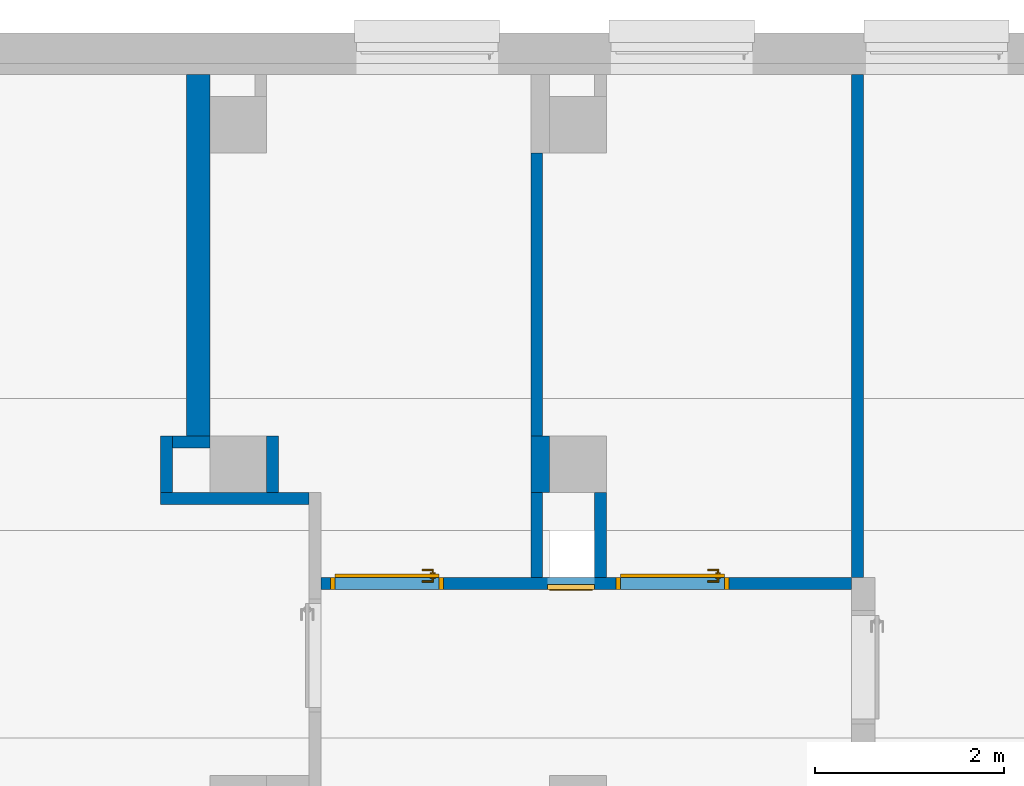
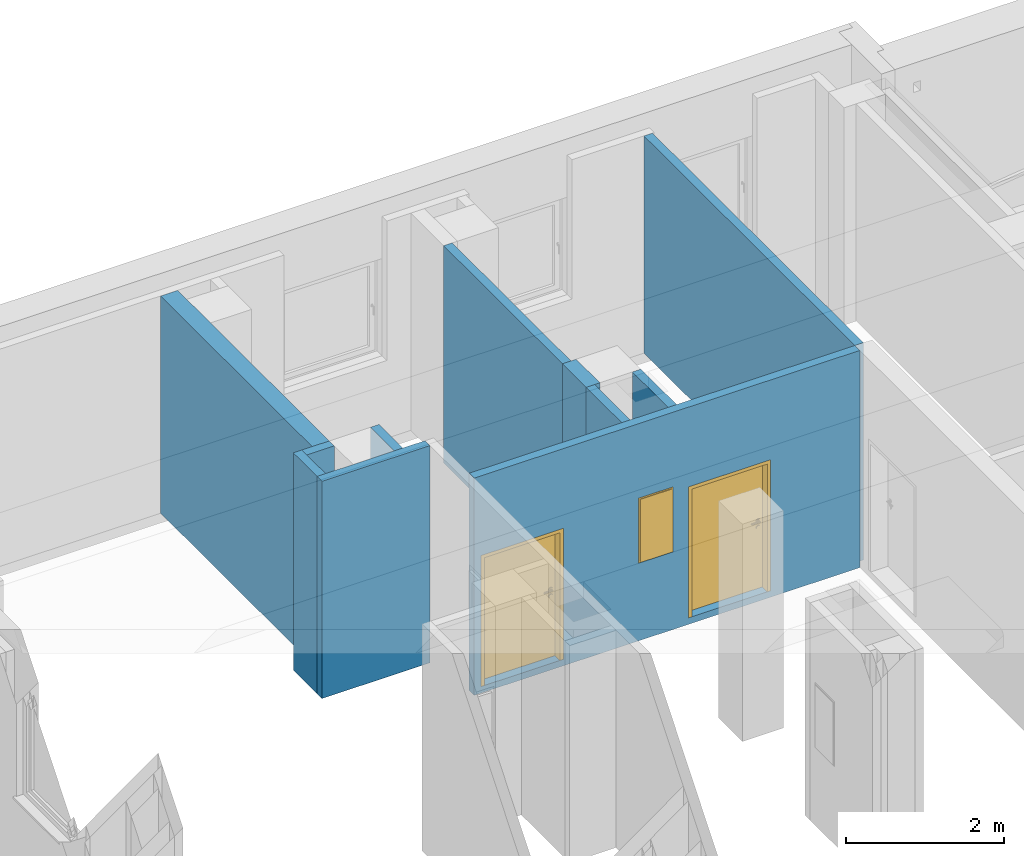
# One storey, part 49 of 140: 11 walls, 2 doors, 1 window, 3 openings.
"""IFC4 building model written with IfcOpenShell, lengths in metres."""

from ifc_helpers import new_model, entity, si_unit, converted_unit, derived_unit, frame, frame_2d, origin, origin_with_axes, place, context, subcontext, project, spatial, polyline, rectangle, outline, extrude, closed_shell, open_shell, faceted_brep, surface_model, source, transform, mapped, material, layer, layer_set, layer_usage, type_object, element, fill, save


model = new_model("IFC4")

# Units and contexts
model_context = context("Model", 3, precision=1e-05, world=origin())
body_context = subcontext(model_context, "Body", "Model", "MODEL_VIEW")
ifc_project = project(units=[si_unit("LENGTHUNIT", "METRE"), si_unit("AREAUNIT", "SQUARE_METRE"), si_unit("VOLUMEUNIT", "CUBIC_METRE"), si_unit("MASSUNIT", "GRAM", prefix="KILO"), converted_unit("PLANEANGLEUNIT", "DEGREE", entity("IfcPlaneAngleMeasure", 0.0174532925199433), si_unit("PLANEANGLEUNIT", "RADIAN"), dimensions=[0, 0, 0, 0, 0, 0, 0]), derived_unit("THERMALTRANSMITTANCEUNIT", [(si_unit("POWERUNIT", "WATT"), 1), (si_unit("THERMODYNAMICTEMPERATUREUNIT", "KELVIN"), -1), (si_unit("LENGTHUNIT", "METRE"), -2)]), derived_unit("VOLUMETRICFLOWRATEUNIT", [(si_unit("LENGTHUNIT", "METRE"), 3), (converted_unit("TIMEUNIT", "hour", entity("IfcTimeMeasure", 3600.0), si_unit("TIMEUNIT", "SECOND"), dimensions=[0, 0, 1, 0, 0, 0, 0]), -1), (si_unit("LENGTHUNIT", "METRE"), -1)])], contexts=[model_context])

# Site, building, storey
site_placement = place(None, origin())
site = spatial("IfcSite", under=ifc_project, at=site_placement, Name="3. ASŘ", CompositionType="ELEMENT")
building_placement = place(site_placement, origin())
building = spatial("IfcBuilding", under=site, at=building_placement, Name="Pavilon C", CompositionType="ELEMENT")
storey_placement = place(building_placement, origin())
storey = spatial("IfcBuildingStorey", under=building, at=storey_placement, Name="Půdorys 1.NP", CompositionType="ELEMENT", Elevation=0.0)

# Walls
ifc_material_1 = material(Name="ZDIVO Z CDm")
ifc_layer_1 = layer(ifc_material_1, 0.125)
ifc_layer_set_1 = layer_set([ifc_layer_1])
ifc_layer_usage_1 = layer_usage(ifc_layer_set_1, "AXIS2", "POSITIVE", 0.0)
wall_1_placement = place(storey_placement, frame((31.5, 28.5, -0.1), z_axis=(0.0, 0.0, 1.0), x_axis=(-1.0, 0.0, 0.0)))
element("IfcWall", 1, at=wall_1_placement, inside=storey, material=ifc_layer_usage_1, Name="ZDIVO Z CDm", context=body_context, shape_type="SweptSolid", body=[
    extrude(rectangle(XDim=1.575, YDim=0.125, at=frame_2d((0.7875, 0.0625), x_axis=(1.0, 0.0))), origin_with_axes(), (0.0, 0.0, 1.0), 3.35),
])
ifc_material_2 = material(Name="ZDIVO Z CDm")
ifc_layer_2 = layer(ifc_material_2, 0.125)
ifc_layer_set_2 = layer_set([ifc_layer_2])
ifc_layer_usage_2 = layer_usage(ifc_layer_set_2, "AXIS2", "POSITIVE", 0.0)
wall_2_placement = place(storey_placement, frame((30.05, 28.5, -0.1), z_axis=(0.0, 0.0, 1.0), x_axis=(0.0, 1.0, 0.0)))
element("IfcWall", 2, at=wall_2_placement, inside=storey, material=ifc_layer_usage_2, Name="ZDIVO Z CDm", context=body_context, shape_type="SweptSolid", body=[
    extrude(rectangle(XDim=0.6, YDim=0.125, at=frame_2d((0.3, 0.0625), x_axis=(1.0, 0.0))), origin_with_axes(), (0.0, 0.0, 1.0), 3.35),
])
ifc_material_3 = material(Name="ZDIVO Z CDm")
ifc_layer_3 = layer(ifc_material_3, 0.125)
ifc_layer_set_3 = layer_set([ifc_layer_3])
ifc_layer_usage_3 = layer_usage(ifc_layer_set_3, "AXIS2", "POSITIVE", 0.0)
wall_3_placement = place(storey_placement, frame((30.05, 28.975, -0.1)))
element("IfcWall", 3, at=wall_3_placement, inside=storey, material=ifc_layer_usage_3, Name="ZDIVO Z CDm", context=body_context, shape_type="SweptSolid", body=[
    extrude(rectangle(XDim=0.400000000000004, YDim=0.125, at=frame_2d((0.200000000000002, 0.0625), x_axis=(1.0, 0.0))), origin_with_axes(), (0.0, 0.0, 1.0), 3.35),
])
ifc_material_4 = material(Name="ZDIVO Z CDm")
ifc_layer_4 = layer(ifc_material_4, 0.125)
ifc_layer_set_4 = layer_set([ifc_layer_4])
ifc_layer_usage_4 = layer_usage(ifc_layer_set_4, "AXIS2", "POSITIVE", 0.0)
wall_4_placement = place(storey_placement, frame((31.05, 29.1, -0.1), z_axis=(0.0, 0.0, 1.0), x_axis=(0.0, -1.0, 0.0)))
element("IfcWall", 4, at=wall_4_placement, inside=storey, material=ifc_layer_usage_4, Name="ZDIVO Z CDm", context=body_context, shape_type="SweptSolid", body=[
    extrude(rectangle(XDim=0.6, YDim=0.125, at=frame_2d((0.3, 0.0625), x_axis=(1.0, 0.0))), origin_with_axes(), (0.0, 0.0, 1.0), 3.35),
])

# Wall, openings, doors, window
ifc_material_5 = material(Name="ZDIVO Z CDm")
ifc_layer_5 = layer(ifc_material_5, 0.125)
ifc_layer_set_5 = layer_set([ifc_layer_5])
ifc_layer_usage_5 = layer_usage(ifc_layer_set_5, "AXIS2", "POSITIVE", 0.0)
wall_5_placement = place(storey_placement, frame((31.625, 27.475, -0.1)))
wall_5 = element("IfcWall", 5, at=wall_5_placement, inside=storey, material=ifc_layer_usage_5, Name="ZDIVO Z CDm", context=body_context, shape_type="SweptSolid", body=[
    extrude(rectangle(XDim=5.625, YDim=0.125, at=frame_2d((2.8125, 0.0625), x_axis=(1.0, 0.0))), origin_with_axes(), (0.0, 0.0, 1.0), 3.35),
])
opening_1_placement = place(wall_5_placement, frame((2.4, 0.0, 1.2), z_axis=(0.0, 1.0, 0.0), x_axis=(0.0, 0.0, 1.0)))
opening_1 = element("IfcOpeningElement", 6, at=opening_1_placement, cuts=wall_5, Name="Okenní otvor", ObjectType="Opening", context=body_context, shape_type="SweptSolid", body=[
    extrude(outline(polyline([(0.0, 0.5), (1.0, 0.5), (1.0, 0.0), (0.0, 0.0), (0.0, 0.5)])), origin_with_axes(), (0.0, 0.0, 1.0), 0.125),
])
opening_2_placement = place(wall_5_placement, frame((1.3, 0.125, 0.1), z_axis=(0.0, -1.0, 0.0), x_axis=(0.0, 0.0, 1.0)))
opening_2 = element("IfcOpeningElement", 7, at=opening_2_placement, cuts=wall_5, Name="Dveřní otvor", ObjectType="Opening", context=body_context, shape_type="SweptSolid", body=[
    extrude(outline(polyline([(0.0, 1.2), (2.02, 1.2), (2.02, 0.0), (0.0, 0.0), (0.0, 1.2)])), origin_with_axes(), (0.0, 0.0, 1.0), 0.125),
])
opening_3_placement = place(wall_5_placement, frame((4.325, 0.125, 0.1), z_axis=(0.0, -1.0, 0.0), x_axis=(0.0, 0.0, 1.0)))
opening_3 = element("IfcOpeningElement", 8, at=opening_3_placement, cuts=wall_5, Name="Dveřní otvor", ObjectType="Opening", context=body_context, shape_type="SweptSolid", body=[
    extrude(outline(polyline([(0.0, 1.2), (2.02, 1.2), (2.02, 0.0), (0.0, 0.0), (0.0, 1.2)])), origin_with_axes(), (0.0, 0.0, 1.0), 0.125),
])
door_type_1 = type_object("IfcDoorType", Name="D101", OperationType="NOTDEFINED", ParameterTakesPrecedence=False, PredefinedType="DOOR")
shared_shape_1 = source(origin_with_axes(), body_context, "Body", "SurfaceModel", [
    surface_model("IfcShellBasedSurfaceModel", [(0.0, 0.125, 2.02), (0.0, 0.125, -7.65404249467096e-18), (0.05, 0.125, -7.65404249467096e-18), (0.05, 0.125, 2.02), (0.0, 0.0, 7.65404249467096e-18), (0.0, 2.41584530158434e-16, 2.02), (0.05, 2.41584530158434e-16, 2.02), (0.05, 0.0, 7.65404249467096e-18)], [closed_shell([[[0, 1, 2, 3]], [[4, 5, 6, 7]], [[1, 0, 5, 4]], [[2, 1, 4, 7]], [[3, 2, 7, 6]], [[0, 3, 6, 5]]], orient=[[False], [False], [False], [False], [False], [False]])]),
    surface_model("IfcShellBasedSurfaceModel", [(1.15, 0.125, 2.02), (1.15, 0.125, -7.65404249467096e-18), (1.2, 0.125, -7.65404249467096e-18), (1.2, 0.125, 2.02), (1.15, 0.0, 7.65404249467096e-18), (1.15, 2.41584530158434e-16, 2.02), (1.2, 2.41584530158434e-16, 2.02), (1.2, 0.0, 7.65404249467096e-18)], [closed_shell([[[0, 1, 2, 3]], [[4, 5, 6, 7]], [[1, 0, 5, 4]], [[2, 1, 4, 7]], [[3, 2, 7, 6]], [[0, 3, 6, 5]]], orient=[[False], [False], [False], [False], [False], [False]])]),
    surface_model("IfcShellBasedSurfaceModel", [(0.05, 0.125, 2.02), (0.05, 0.125, 1.97), (1.15, 0.125, 1.97), (1.15, 0.125, 2.02), (0.05, 2.41584530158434e-16, 1.97), (0.05, 2.41584530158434e-16, 2.02), (1.15, 2.41584530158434e-16, 2.02), (1.15, 2.41584530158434e-16, 1.97)], [closed_shell([[[0, 1, 2, 3]], [[4, 5, 6, 7]], [[1, 0, 5, 4]], [[2, 1, 4, 7]], [[3, 2, 7, 6]], [[0, 3, 6, 5]]], orient=[[False], [False], [False], [False], [False], [False]])]),
    surface_model("IfcShellBasedSurfaceModel", [(0.05, 0.165, 1.97), (0.05, 0.165, -1.25526296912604e-17), (1.15, 0.165, -1.25526296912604e-17), (1.15, 0.165, 1.97), (0.05, 0.125, -7.65404249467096e-18), (0.05, 0.125, 1.97), (1.15, 0.125, 1.97), (1.15, 0.125, -7.65404249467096e-18)], [closed_shell([[[0, 1, 2, 3]], [[4, 5, 6, 7]], [[1, 0, 5, 4]], [[2, 1, 4, 7]], [[3, 2, 7, 6]], [[0, 3, 6, 5]]], orient=[[False], [False], [False], [False], [False], [False]])]),
    surface_model("IfcShellBasedSurfaceModel", [(1.10881569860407, 0.125, 0.93625), (1.1125, 0.125, 0.95), (1.10881569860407, 0.125, 0.96375), (1.09875, 0.125, 0.973815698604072), (1.085, 0.125, 0.9775), (1.07125, 0.125, 0.973815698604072), (1.06118430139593, 0.125, 0.96375), (1.0575, 0.125, 0.95), (1.06118430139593, 0.125, 0.93625), (1.07125, 0.125, 0.926184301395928), (1.085, 0.125, 0.9225), (1.09875, 0.125, 0.926184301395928), (1.1125, 0.1125, 0.95), (1.10881569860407, 0.1125, 0.93625), (1.09875, 0.1125, 0.926184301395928), (1.085, 0.1125, 0.9225), (1.07125, 0.1125, 0.926184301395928), (1.06118430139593, 0.1125, 0.93625), (1.0575, 0.1125, 0.95), (1.06118430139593, 0.1125, 0.96375), (1.07125, 0.1125, 0.973815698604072), (1.085, 0.1125, 0.9775), (1.09875, 0.1125, 0.973815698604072), (1.10881569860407, 0.1125, 0.96375)], [closed_shell([[[0, 1, 2, 3, 4, 5, 6, 7, 8, 9, 10, 11]], [[12, 13, 14, 15, 16, 17, 18, 19, 20, 21, 22, 23]], [[1, 0, 13, 12]], [[2, 1, 12, 23]], [[3, 2, 23, 22]], [[4, 3, 22, 21]], [[5, 4, 21, 20]], [[6, 5, 20, 19]], [[7, 6, 19, 18]], [[8, 7, 18, 17]], [[9, 8, 17, 16]], [[10, 9, 16, 15]], [[11, 10, 15, 14]], [[0, 11, 14, 13]]], orient=[[False], [False], [False], [False], [False], [False], [False], [False], [False], [False], [False], [False], [False], [False]])]),
    surface_model("IfcShellBasedSurfaceModel", [(1.10881569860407, 0.125, 1.03625), (1.1125, 0.125, 1.05), (1.10881569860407, 0.125, 1.06375), (1.09875, 0.125, 1.07381569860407), (1.085, 0.125, 1.0775), (1.07125, 0.125, 1.07381569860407), (1.06118430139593, 0.125, 1.06375), (1.0575, 0.125, 1.05), (1.06118430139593, 0.125, 1.03625), (1.07125, 0.125, 1.02618430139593), (1.085, 0.125, 1.0225), (1.09875, 0.125, 1.02618430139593), (1.1125, 0.1125, 1.05), (1.10881569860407, 0.1125, 1.03625), (1.09875, 0.1125, 1.02618430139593), (1.085, 0.1125, 1.0225), (1.07125, 0.1125, 1.02618430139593), (1.06118430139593, 0.1125, 1.03625), (1.0575, 0.1125, 1.05), (1.06118430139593, 0.1125, 1.06375), (1.07125, 0.1125, 1.07381569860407), (1.085, 0.1125, 1.0775), (1.09875, 0.1125, 1.07381569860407), (1.10881569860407, 0.1125, 1.06375)], [closed_shell([[[0, 1, 2, 3, 4, 5, 6, 7, 8, 9, 10, 11]], [[12, 13, 14, 15, 16, 17, 18, 19, 20, 21, 22, 23]], [[1, 0, 13, 12]], [[2, 1, 12, 23]], [[3, 2, 23, 22]], [[4, 3, 22, 21]], [[5, 4, 21, 20]], [[6, 5, 20, 19]], [[7, 6, 19, 18]], [[8, 7, 18, 17]], [[9, 8, 17, 16]], [[10, 9, 16, 15]], [[11, 10, 15, 14]], [[0, 11, 14, 13]]], orient=[[False], [False], [False], [False], [False], [False], [False], [False], [False], [False], [False], [False], [False], [False]])]),
    surface_model("IfcShellBasedSurfaceModel", [(1.085, 0.125, 1.06), (1.08, 0.125, 1.05866025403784), (1.07633974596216, 0.125, 1.055), (1.075, 0.125, 1.05), (1.07633974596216, 0.125, 1.045), (1.08, 0.125, 1.04133974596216), (1.085, 0.125, 1.04), (1.09, 0.125, 1.04133974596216), (1.09366025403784, 0.125, 1.045), (1.095, 0.125, 1.05), (1.09366025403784, 0.125, 1.055), (1.09, 0.125, 1.05866025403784), (1.09, 0.0800000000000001, 1.05866025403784), (1.085, 0.0850000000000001, 1.06), (1.09366025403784, 0.0763397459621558, 1.055), (1.095, 0.0750000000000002, 1.05), (1.09366025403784, 0.0763397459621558, 1.045), (1.09, 0.0800000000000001, 1.04133974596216), (1.085, 0.0850000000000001, 1.04), (1.08, 0.0900000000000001, 1.04133974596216), (1.07633974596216, 0.0936602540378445, 1.045), (1.075, 0.0950000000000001, 1.05), (1.07633974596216, 0.0936602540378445, 1.055), (1.08, 0.0900000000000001, 1.05866025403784), (0.97, 0.0800000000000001, 1.05866025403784), (0.97, 0.0850000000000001, 1.06), (0.97, 0.0763397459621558, 1.055), (0.97, 0.0750000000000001, 1.05), (0.97, 0.0763397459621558, 1.045), (0.97, 0.0800000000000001, 1.04133974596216), (0.97, 0.0850000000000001, 1.04), (0.97, 0.0900000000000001, 1.04133974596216), (0.97, 0.0936602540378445, 1.045), (0.97, 0.0950000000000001, 1.05), (0.97, 0.0936602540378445, 1.055), (0.97, 0.0900000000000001, 1.05866025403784)], [open_shell([[[0, 1, 2, 3, 4, 5, 6, 7, 8, 9, 10, 11]], [[0, 11, 12, 13]], [[11, 10, 14, 12]], [[10, 9, 15, 14]], [[9, 8, 16, 15]], [[8, 7, 17, 16]], [[7, 6, 18, 17]], [[6, 5, 19, 18]], [[5, 4, 20, 19]], [[4, 3, 21, 20]], [[3, 2, 22, 21]], [[2, 1, 23, 22]], [[1, 0, 13, 23]], [[13, 12, 24, 25]], [[12, 14, 26, 24]], [[14, 15, 27, 26]], [[15, 16, 28, 27]], [[16, 17, 29, 28]], [[17, 18, 30, 29]], [[18, 19, 31, 30]], [[19, 20, 32, 31]], [[20, 21, 33, 32]], [[21, 22, 34, 33]], [[22, 23, 35, 34]], [[23, 13, 25, 35]]], orient=[[False], [False], [False], [False], [False], [False], [False], [False], [False], [False], [False], [False], [False], [False], [False], [False], [False], [False], [False], [False], [False], [False], [False], [False], [False]])]),
    surface_model("IfcShellBasedSurfaceModel", [(1.10881569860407, 0.165, 0.93625), (1.09875, 0.165, 0.926184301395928), (1.085, 0.165, 0.9225), (1.07125, 0.165, 0.926184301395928), (1.06118430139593, 0.165, 0.93625), (1.0575, 0.165, 0.95), (1.06118430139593, 0.165, 0.96375), (1.07125, 0.165, 0.973815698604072), (1.085, 0.165, 0.9775), (1.09875, 0.165, 0.973815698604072), (1.10881569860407, 0.165, 0.96375), (1.1125, 0.165, 0.95), (1.1125, 0.1775, 0.95), (1.10881569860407, 0.1775, 0.96375), (1.09875, 0.1775, 0.973815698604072), (1.085, 0.1775, 0.9775), (1.07125, 0.1775, 0.973815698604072), (1.06118430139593, 0.1775, 0.96375), (1.0575, 0.1775, 0.95), (1.06118430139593, 0.1775, 0.93625), (1.07125, 0.1775, 0.926184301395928), (1.085, 0.1775, 0.9225), (1.09875, 0.1775, 0.926184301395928), (1.10881569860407, 0.1775, 0.93625)], [closed_shell([[[0, 1, 2, 3, 4, 5, 6, 7, 8, 9, 10, 11]], [[12, 13, 14, 15, 16, 17, 18, 19, 20, 21, 22, 23]], [[11, 12, 23, 0]], [[10, 13, 12, 11]], [[9, 14, 13, 10]], [[8, 15, 14, 9]], [[7, 16, 15, 8]], [[6, 17, 16, 7]], [[5, 18, 17, 6]], [[4, 19, 18, 5]], [[3, 20, 19, 4]], [[2, 21, 20, 3]], [[1, 22, 21, 2]], [[0, 23, 22, 1]]], orient=[[False], [False], [False], [False], [False], [False], [False], [False], [False], [False], [False], [False], [False], [False]])]),
    surface_model("IfcShellBasedSurfaceModel", [(1.10881569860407, 0.165, 1.03625), (1.09875, 0.165, 1.02618430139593), (1.085, 0.165, 1.0225), (1.07125, 0.165, 1.02618430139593), (1.06118430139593, 0.165, 1.03625), (1.0575, 0.165, 1.05), (1.06118430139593, 0.165, 1.06375), (1.07125, 0.165, 1.07381569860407), (1.085, 0.165, 1.0775), (1.09875, 0.165, 1.07381569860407), (1.10881569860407, 0.165, 1.06375), (1.1125, 0.165, 1.05), (1.1125, 0.1775, 1.05), (1.10881569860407, 0.1775, 1.06375), (1.09875, 0.1775, 1.07381569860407), (1.085, 0.1775, 1.0775), (1.07125, 0.1775, 1.07381569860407), (1.06118430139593, 0.1775, 1.06375), (1.0575, 0.1775, 1.05), (1.06118430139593, 0.1775, 1.03625), (1.07125, 0.1775, 1.02618430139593), (1.085, 0.1775, 1.0225), (1.09875, 0.1775, 1.02618430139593), (1.10881569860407, 0.1775, 1.03625)], [closed_shell([[[0, 1, 2, 3, 4, 5, 6, 7, 8, 9, 10, 11]], [[12, 13, 14, 15, 16, 17, 18, 19, 20, 21, 22, 23]], [[11, 12, 23, 0]], [[10, 13, 12, 11]], [[9, 14, 13, 10]], [[8, 15, 14, 9]], [[7, 16, 15, 8]], [[6, 17, 16, 7]], [[5, 18, 17, 6]], [[4, 19, 18, 5]], [[3, 20, 19, 4]], [[2, 21, 20, 3]], [[1, 22, 21, 2]], [[0, 23, 22, 1]]], orient=[[False], [False], [False], [False], [False], [False], [False], [False], [False], [False], [False], [False], [False], [False]])]),
    surface_model("IfcShellBasedSurfaceModel", [(1.085, 0.165, 1.06), (1.09, 0.165, 1.05866025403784), (1.09366025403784, 0.165, 1.055), (1.095, 0.165, 1.05), (1.09366025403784, 0.165, 1.045), (1.09, 0.165, 1.04133974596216), (1.085, 0.165, 1.04), (1.08, 0.165, 1.04133974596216), (1.07633974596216, 0.165, 1.045), (1.075, 0.165, 1.05), (1.07633974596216, 0.165, 1.055), (1.08, 0.165, 1.05866025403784), (1.085, 0.205, 1.06), (1.09, 0.21, 1.05866025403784), (1.09366025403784, 0.213660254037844, 1.055), (1.095, 0.215, 1.05), (1.09366025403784, 0.213660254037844, 1.045), (1.09, 0.21, 1.04133974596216), (1.085, 0.205, 1.04), (1.08, 0.2, 1.04133974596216), (1.07633974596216, 0.196339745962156, 1.045), (1.075, 0.195, 1.05), (1.07633974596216, 0.196339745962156, 1.055), (1.08, 0.2, 1.05866025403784), (0.97, 0.205, 1.06), (0.97, 0.21, 1.05866025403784), (0.97, 0.213660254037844, 1.055), (0.97, 0.215, 1.05), (0.97, 0.213660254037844, 1.045), (0.97, 0.21, 1.04133974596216), (0.97, 0.205, 1.04), (0.97, 0.2, 1.04133974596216), (0.97, 0.196339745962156, 1.045), (0.97, 0.195, 1.05), (0.97, 0.196339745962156, 1.055), (0.97, 0.2, 1.05866025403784)], [open_shell([[[0, 1, 2, 3, 4, 5, 6, 7, 8, 9, 10, 11]], [[0, 12, 13, 1]], [[1, 13, 14, 2]], [[2, 14, 15, 3]], [[3, 15, 16, 4]], [[4, 16, 17, 5]], [[5, 17, 18, 6]], [[6, 18, 19, 7]], [[7, 19, 20, 8]], [[8, 20, 21, 9]], [[9, 21, 22, 10]], [[10, 22, 23, 11]], [[11, 23, 12, 0]], [[12, 24, 25, 13]], [[13, 25, 26, 14]], [[14, 26, 27, 15]], [[15, 27, 28, 16]], [[16, 28, 29, 17]], [[17, 29, 30, 18]], [[18, 30, 31, 19]], [[19, 31, 32, 20]], [[20, 32, 33, 21]], [[21, 33, 34, 22]], [[22, 34, 35, 23]], [[23, 35, 24, 12]]], orient=[[False], [False], [False], [False], [False], [False], [False], [False], [False], [False], [False], [False], [False], [False], [False], [False], [False], [False], [False], [False], [False], [False], [False], [False], [False]])]),
])
door_1_placement = place(opening_2_placement, frame((0.0, 1.2, 0.125), z_axis=(1.0, 0.0, 0.0), x_axis=(0.0, -1.0, 2.44929359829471e-16)))
door_1 = element("IfcDoor", 9, at=door_1_placement, inside=storey, type_object=door_type_1, Name="D101", OverallHeight=2.02, OverallWidth=1.2, context=body_context, shape_type="MappedRepresentation", body=[
    mapped(shared_shape_1, transform((0.0, 0.0, 0.0), x_axis=(1.0, 0.0, 0.0), y_axis=(0.0, 1.0, 0.0), z_axis=(0.0, 0.0, 1.0), scale=1.0)),
])
fill(opening_2, door_1)
door_type_2 = type_object("IfcDoorType", Name="D101", OperationType="NOTDEFINED", ParameterTakesPrecedence=False, PredefinedType="DOOR")
door_2_placement = place(opening_3_placement, frame((0.0, 1.2, 0.125), z_axis=(1.0, 0.0, 0.0), x_axis=(0.0, -1.0, 2.44929359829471e-16)))
door_2 = element("IfcDoor", 10, at=door_2_placement, inside=storey, type_object=door_type_2, Name="D101", OverallHeight=2.02, OverallWidth=1.2, context=body_context, shape_type="MappedRepresentation", body=[
    mapped(shared_shape_1, transform((0.0, 0.0, 0.0), x_axis=(1.0, 0.0, 0.0), y_axis=(0.0, 1.0, 0.0), z_axis=(0.0, 0.0, 1.0), scale=1.0)),
])
fill(opening_3, door_2)
shared_shape_2 = source(origin_with_axes(), body_context, "Body", "Brep", [
    faceted_brep([(0.0, 0.0600000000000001, 1.0), (0.0, 0.06, 4.91096680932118e-19), (0.02, 0.06, 4.91096680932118e-19), (0.02, 0.0600000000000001, 1.0), (0.0, 0.01, 6.61433067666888e-18), (0.0, 0.0100000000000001, 1.0), (0.02, 0.0100000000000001, 1.0), (0.02, 0.01, 6.61433067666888e-18)], [[[0, 1, 2, 3]], [[4, 5, 6, 7]], [[1, 0, 5, 4]], [[2, 1, 4, 7]], [[3, 2, 7, 6]], [[0, 3, 6, 5]]], orient=[[False], [False], [False], [False], [False], [False]]),
    faceted_brep([(0.48, 0.0600000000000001, 1.0), (0.48, 0.06, 4.91096680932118e-19), (0.5, 0.06, 4.91096680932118e-19), (0.5, 0.0600000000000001, 1.0), (0.48, 0.01, 6.61433067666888e-18), (0.48, 0.0100000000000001, 1.0), (0.5, 0.0100000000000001, 1.0), (0.5, 0.01, 6.61433067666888e-18)], [[[0, 1, 2, 3]], [[4, 5, 6, 7]], [[1, 0, 5, 4]], [[2, 1, 4, 7]], [[3, 2, 7, 6]], [[0, 3, 6, 5]]], orient=[[False], [False], [False], [False], [False], [False]]),
    faceted_brep([(0.02, 0.06, 0.02), (0.02, 0.06, 4.91096680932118e-19), (0.48, 0.06, 4.91096680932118e-19), (0.48, 0.06, 0.02), (0.02, 0.01, 6.61433067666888e-18), (0.02, 0.01, 0.02), (0.48, 0.01, 0.02), (0.48, 0.01, 6.61433067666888e-18)], [[[0, 1, 2, 3]], [[4, 5, 6, 7]], [[1, 0, 5, 4]], [[2, 1, 4, 7]], [[3, 2, 7, 6]], [[0, 3, 6, 5]]], orient=[[False], [False], [False], [False], [False], [False]]),
    faceted_brep([(0.02, 0.0600000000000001, 1.0), (0.02, 0.0600000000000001, 0.98), (0.48, 0.0600000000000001, 0.98), (0.48, 0.0600000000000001, 1.0), (0.02, 0.0100000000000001, 0.98), (0.02, 0.0100000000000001, 1.0), (0.48, 0.0100000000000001, 1.0), (0.48, 0.0100000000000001, 0.98)], [[[0, 1, 2, 3]], [[4, 5, 6, 7]], [[1, 0, 5, 4]], [[2, 1, 4, 7]], [[3, 2, 7, 6]], [[0, 3, 6, 5]]], orient=[[False], [False], [False], [False], [False], [False]]),
    faceted_brep([(0.02, 0.0100000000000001, 0.98), (0.02, 0.01, 0.02), (0.48, 0.01, 0.02), (0.48, 0.0100000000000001, 0.98), (0.02, 0.0, 0.02), (0.02, 1.17239551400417e-16, 0.98), (0.48, 1.17239551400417e-16, 0.98), (0.48, 0.0, 0.02)], [[[0, 1, 2, 3]], [[4, 5, 6, 7]], [[1, 0, 5, 4]], [[2, 1, 4, 7]], [[3, 2, 7, 6]], [[0, 3, 6, 5]]], orient=[[False], [False], [False], [False], [False], [False]]),
])
window_placement = place(opening_1_placement, frame((0.0, 0.0, -0.01), z_axis=(1.0, 0.0, 0.0), x_axis=(0.0, 1.0, 0.0)))
window = element("IfcWindow", 11, at=window_placement, inside=storey, Name="O01", OverallHeight=1.0, OverallWidth=0.5, PartitioningType="USERDEFINED", PredefinedType="WINDOW", context=body_context, shape_type="MappedRepresentation", body=[
    mapped(shared_shape_2, transform((0.0, 0.0, 0.0), x_axis=(1.0, 0.0, 0.0), y_axis=(0.0, 1.0, 0.0), z_axis=(0.0, 0.0, 1.0), scale=1.0)),
])
fill(opening_1, window)

# Walls
ifc_material_6 = material(Name="ZDIVO Z CDm")
ifc_layer_6 = layer(ifc_material_6, 0.125)
ifc_layer_set_6 = layer_set([ifc_layer_6])
ifc_layer_usage_6 = layer_usage(ifc_layer_set_6, "AXIS2", "POSITIVE", 0.0)
wall_6_placement = place(storey_placement, frame((34.65, 27.6, -0.1), z_axis=(0.0, 0.0, 1.0), x_axis=(0.0, 1.0, 0.0)))
element("IfcWall", 12, at=wall_6_placement, inside=storey, material=ifc_layer_usage_6, Name="ZDIVO Z CDm", context=body_context, shape_type="SweptSolid", body=[
    extrude(rectangle(XDim=0.9, YDim=0.125, at=frame_2d((0.45, 0.0625), x_axis=(1.0, 0.0))), origin_with_axes(), (0.0, 0.0, 1.0), 3.35),
])
ifc_material_7 = material(Name="ZDIVO Z CDm")
ifc_layer_7 = layer(ifc_material_7, 0.2)
ifc_layer_set_7 = layer_set([ifc_layer_7])
ifc_layer_usage_7 = layer_usage(ifc_layer_set_7, "AXIS2", "POSITIVE", 0.0)
wall_7_placement = place(storey_placement, frame((33.85, 29.1, -0.1), z_axis=(0.0, 0.0, 1.0), x_axis=(0.0, -1.0, 0.0)))
element("IfcWall", 13, at=wall_7_placement, inside=storey, material=ifc_layer_usage_7, Name="ZDIVO Z CDm", context=body_context, shape_type="SweptSolid", body=[
    extrude(rectangle(XDim=0.6, YDim=0.2, at=frame_2d((0.3, 0.1), x_axis=(1.0, 0.0))), origin_with_axes(), (0.0, 0.0, 1.0), 3.35),
])
ifc_material_8 = material(Name="ZDIVO Z CDm")
ifc_layer_8 = layer(ifc_material_8, 0.125)
ifc_layer_set_8 = layer_set([ifc_layer_8])
ifc_layer_usage_8 = layer_usage(ifc_layer_set_8, "AXIS2", "POSITIVE", 0.0)
wall_8_placement = place(storey_placement, frame((33.975, 27.6, -0.1), z_axis=(0.0, 0.0, 1.0), x_axis=(0.0, 1.0, 0.0)))
element("IfcWall", 14, at=wall_8_placement, inside=storey, material=ifc_layer_usage_8, Name="ZDIVO Z CDm", context=body_context, shape_type="SweptSolid", body=[
    extrude(rectangle(XDim=0.9, YDim=0.125, at=frame_2d((0.45, 0.0625), x_axis=(1.0, 0.0))), origin_with_axes(), (0.0, 0.0, 1.0), 3.35),
])
ifc_material_9 = material(Name="ZDIVO Z CDm")
ifc_layer_9 = layer(ifc_material_9, 0.125)
ifc_layer_set_9 = layer_set([ifc_layer_9])
ifc_layer_usage_9 = layer_usage(ifc_layer_set_9, "AXIS2", "POSITIVE", 0.0)
wall_9_placement = place(storey_placement, frame((33.975, 29.1, -0.1), z_axis=(0.0, 0.0, 1.0), x_axis=(0.0, 1.0, 0.0)))
element("IfcWall", 15, at=wall_9_placement, inside=storey, material=ifc_layer_usage_9, Name="ZDIVO Z CDm", context=body_context, shape_type="SweptSolid", body=[
    extrude(rectangle(XDim=3.0, YDim=0.125, at=frame_2d((1.5, 0.0625), x_axis=(1.0, 0.0))), origin_with_axes(), (0.0, 0.0, 1.0), 3.35),
])
ifc_material_10 = material(Name="ZDIVO Z CDm")
ifc_layer_10 = layer(ifc_material_10, 0.125)
ifc_layer_set_10 = layer_set([ifc_layer_10])
ifc_layer_usage_10 = layer_usage(ifc_layer_set_10, "AXIS2", "POSITIVE", 0.0)
wall_10_placement = place(storey_placement, frame((37.375, 27.6, -0.1), z_axis=(0.0, 0.0, 1.0), x_axis=(0.0, 1.0, 0.0)))
element("IfcWall", 16, at=wall_10_placement, inside=storey, material=ifc_layer_usage_10, Name="ZDIVO Z CDm", context=body_context, shape_type="SweptSolid", body=[
    extrude(rectangle(XDim=5.33, YDim=0.125, at=frame_2d((2.665, 0.0625), x_axis=(1.0, 0.0))), origin_with_axes(), (0.0, 0.0, 1.0), 3.35),
])
ifc_material_11 = material(Name="ZDIVO Z CDm")
ifc_layer_11 = layer(ifc_material_11, 0.25)
ifc_layer_set_11 = layer_set([ifc_layer_11])
ifc_layer_usage_11 = layer_usage(ifc_layer_set_11, "AXIS2", "POSITIVE", 0.0)
wall_11_placement = place(storey_placement, frame((30.45, 29.1, -0.1), z_axis=(0.0, 0.0, 1.0), x_axis=(0.0, 1.0, 0.0)))
element("IfcWall", 17, at=wall_11_placement, inside=storey, material=ifc_layer_usage_11, Name="ZDIVO Z CDm", context=body_context, shape_type="SweptSolid", body=[
    extrude(rectangle(XDim=3.83, YDim=0.25, at=frame_2d((1.915, 0.125), x_axis=(1.0, 0.0))), origin_with_axes(), (0.0, 0.0, 1.0), 3.35),
])

save(model, "model.ifc")
